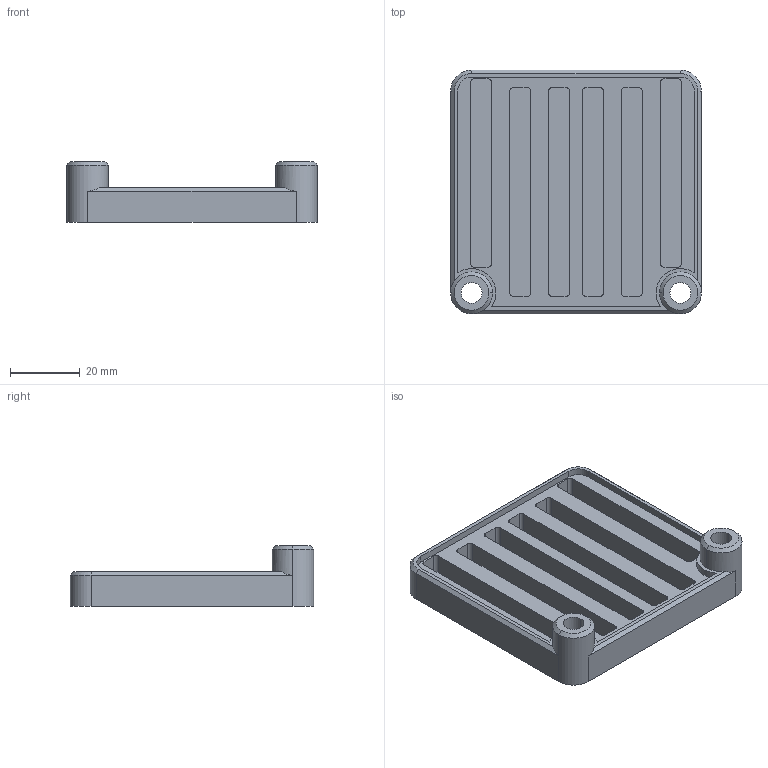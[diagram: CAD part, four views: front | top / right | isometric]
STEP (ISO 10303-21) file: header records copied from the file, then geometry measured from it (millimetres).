
FILE_DESCRIPTION((''),'2;1');
FILE_NAME('G-PORT-02','2024-04-25T10:10:40',('DELL'),(''),'CREO PARAMETRIC BY PTC INC, 2022073','CREO PARAMETRIC BY PTC INC, 2022073','');
FILE_SCHEMA(('CONFIG_CONTROL_DESIGN','SHAPE_APPEARANCE_LAYERS_GROUPS'));
Length unit declared in the file: millimetre
Products named in the file (1): G-PORT-02
Bounding box: 72 x 70 x 17.5 mm (x, y, z)
Volume: 29598.9 mm3; surface area: 18754.9 mm2
Topology: 1 solids, 1 shells, 91 faces, 248 edges, 166 vertices
Faces by surface type: plane 47, cylinder 38, cone 6
Entity records: 3262 total; most frequent: DIRECTION 522, CARTESIAN_POINT 519, ORIENTED_EDGE 496, COLOUR_RGB 292, EDGE_CURVE 248, AXIS2_PLACEMENT_3D 187, VERTEX_POINT 166, VECTOR 148
